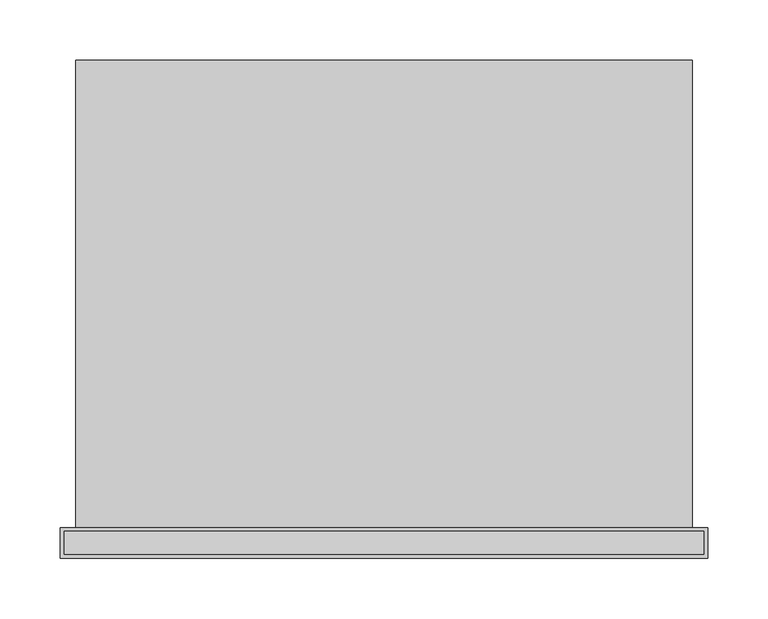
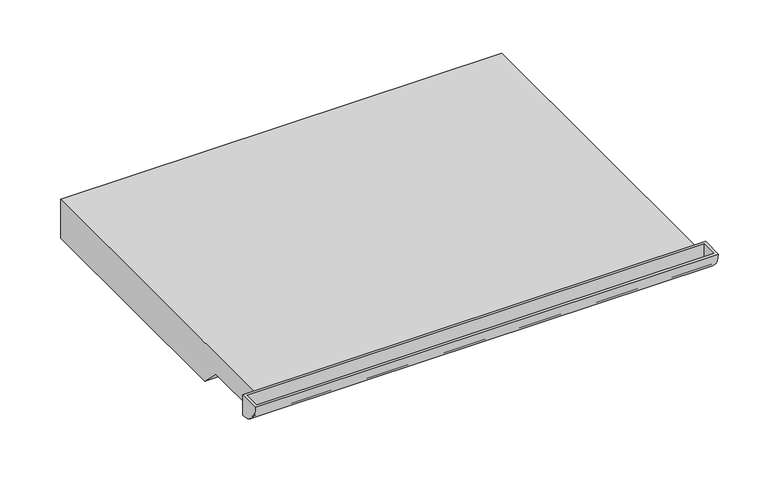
"""IFC4 building model written with IfcOpenShell, lengths in millimetres: furniture geometry."""

import ifcopenshell
import ifcopenshell.guid

model = None  # the IFC model being written
_history = None  # IfcOwnerHistory: only IFC2X3 demands one
_inside = {}  # id of a spatial element -> (the spatial element, [elements in it])
_under = {}  # id of a project, library or spatial element -> (it, [spatial elements below it])
_declared = {}  # id of a project -> (the project, [libraries it declares])
_typed = {}  # id of a type object -> (the type object, [elements of that type])
_made_of = {}  # id of a material, layer set ... -> (it, [elements and type objects made of it])


def new_model(schema):
    """Start an empty IFC model of exactly this schema.

    Asked for "IFC4X3", IfcOpenShell would pick the latest addendum, in which some entities
    have other attributes; the version numbers below select the first issue.
    IFC2X3 requires an IfcOwnerHistory on every rooted entity: one is made here for all.
    """
    global model, _history
    if schema == "IFC4X3":
        model = ifcopenshell.file(schema_version=(4, 3, 0, 0))
    else:
        model = ifcopenshell.file(schema=schema)
    _inside.clear()
    _under.clear()
    _declared.clear()
    _typed.clear()
    _made_of.clear()
    _history = None
    if model.schema == "IFC2X3":
        org = make("IfcOrganization", Name="unknown")
        user = make(
            "IfcPersonAndOrganization",
            ThePerson=make("IfcPerson", FamilyName="unknown"),
            TheOrganization=org,
        )
        app = make(
            "IfcApplication",
            ApplicationDeveloper=org,
            Version="unknown",
            ApplicationFullName="unknown",
            ApplicationIdentifier="unknown",
        )
        _history = make(
            "IfcOwnerHistory",
            OwningUser=user,
            OwningApplication=app,
            ChangeAction="ADDED",
            CreationDate=0,
        )
    return model


def make(cls, **values):
    """One entity of the class cls with the attributes given. An attribute that is None is left unset."""
    return model.create_entity(
        cls, **{name: value for name, value in values.items() if value is not None}
    )


def rooted(cls, **values):
    """An entity with a GlobalId (a new one), such as an element, a storey or a relation."""
    return make(cls, GlobalId=ifcopenshell.guid.new(), OwnerHistory=_history, **values)


def si_unit(unit_type, name, prefix=None):
    """IfcSIUnit, for example si_unit("LENGTHUNIT", "METRE", prefix="MILLI")."""
    return make("IfcSIUnit", UnitType=unit_type, Prefix=prefix, Name=name)


def assignment(units):
    """IfcUnitAssignment: the units of a project."""
    return None if units is None else make("IfcUnitAssignment", Units=units)


def point(xyz):
    """IfcCartesianPoint."""
    return None if xyz is None else make("IfcCartesianPoint", Coordinates=xyz)


def direction(xyz):
    """IfcDirection."""
    return None if xyz is None else make("IfcDirection", DirectionRatios=xyz)


def frame(location, z_axis=None, x_axis=None):
    """IfcAxis2Placement3D, a coordinate frame: its origin and axes. An axis left out is left unset."""
    return make(
        "IfcAxis2Placement3D",
        Location=point(location),
        Axis=direction(z_axis),
        RefDirection=direction(x_axis),
    )


def origin():
    """The frame at (0, 0, 0) with its axes left unset."""
    return frame((0.0, 0.0, 0.0))


def place(relative_to, where):
    """IfcLocalPlacement: puts the frame where relative to a parent placement (None: the world)."""
    return make(
        "IfcLocalPlacement", PlacementRelTo=relative_to, RelativePlacement=where
    )


def context(
    kind, dimensions, precision=None, world=None, true_north=None, identifier=None
):
    """IfcGeometricRepresentationContext, for example the 3D "Model" context."""
    return make(
        "IfcGeometricRepresentationContext",
        ContextIdentifier=identifier,
        ContextType=kind,
        CoordinateSpaceDimension=dimensions,
        Precision=precision,
        WorldCoordinateSystem=world,
        TrueNorth=true_north,
    )


def project(units=None, contexts=None):
    """IfcProject with its units and contexts."""
    return rooted(
        "IfcProject",
        Name="project",
        RepresentationContexts=contexts,
        UnitsInContext=assignment(units),
    )


def spatial(cls, under=None, at=None, **own):
    """A site, building, storey or space (cls), placed at a placement, below another one or the project."""
    s = rooted(cls, ObjectPlacement=at, **own)
    if under is not None:
        _under.setdefault(under.id(), (under, []))[1].append(s)
    return s


def polyline(points):
    """IfcPolyline through the points."""
    return make("IfcPolyline", Points=[point(p) for p in points])


def circle_curve(where, radius):
    """IfcCircle in the frame where."""
    return make("IfcCircle", Position=where, Radius=radius)


def outline(outer, holes=None, kind="AREA"):
    """IfcArbitraryClosedProfileDef: a profile drawn as a closed curve; with holes, ...WithVoids."""
    if holes is None:
        return make("IfcArbitraryClosedProfileDef", ProfileType=kind, OuterCurve=outer)
    return make(
        "IfcArbitraryProfileDefWithVoids",
        ProfileType=kind,
        OuterCurve=outer,
        InnerCurves=holes,
    )


def extrude(swept, where, along, depth):
    """IfcExtrudedAreaSolid: the profile swept, set in the frame where, extruded along a direction by depth."""
    return make(
        "IfcExtrudedAreaSolid",
        SweptArea=swept,
        Position=where,
        ExtrudedDirection=direction(along),
        Depth=depth,
    )


def shape(context_of_items, identifier, shape_type, items):
    """IfcShapeRepresentation: the items that make up one representation, for example the "Body"."""
    return make(
        "IfcShapeRepresentation",
        ContextOfItems=context_of_items,
        RepresentationIdentifier=identifier,
        RepresentationType=shape_type,
        Items=items,
    )


def source(mapping_origin, context_of_items, identifier, shape_type, items):
    """IfcRepresentationMap: a shape defined once, which mapped items show again and again."""
    return make(
        "IfcRepresentationMap",
        MappingOrigin=mapping_origin,
        MappedRepresentation=shape(context_of_items, identifier, shape_type, items),
    )


def transform(
    local_origin,
    x_axis=None,
    y_axis=None,
    z_axis=None,
    scale=None,
    scale2=None,
    scale3=None,
    uniform=True,
):
    """IfcCartesianTransformationOperator3D, or its non-uniform kind. x_axis, y_axis, z_axis: its Axis1, 2, 3."""
    if uniform:
        return make(
            "IfcCartesianTransformationOperator3D",
            Axis1=direction(x_axis),
            Axis2=direction(y_axis),
            LocalOrigin=point(local_origin),
            Scale=scale,
            Axis3=direction(z_axis),
        )
    return make(
        "IfcCartesianTransformationOperator3DnonUniform",
        Axis1=direction(x_axis),
        Axis2=direction(y_axis),
        LocalOrigin=point(local_origin),
        Scale=scale,
        Axis3=direction(z_axis),
        Scale2=scale2,
        Scale3=scale3,
    )


def mapped(mapping_source, mapping_target):
    """IfcMappedItem: shows the shape of a source again, moved by a transform."""
    return make(
        "IfcMappedItem", MappingSource=mapping_source, MappingTarget=mapping_target
    )


def made_of(thing, what):
    """Note that an element or type object is made of a material, layer set ...; save() writes the relation."""
    if what is not None:
        _made_of.setdefault(what.id(), (what, []))[1].append(thing)
    return thing


def element(
    cls,
    number,
    at=None,
    inside=None,
    cuts=None,
    type_object=None,
    material=None,
    context=None,
    identifier="Body",
    shape_type=None,
    held_by="IfcProductDefinitionShape",
    body=None,
    shapes=None,
    **own,
):
    """One element of the class cls, such as IfcWall. Its Tag is "e" and its number.

    at: its placement. inside: the storey or other place that contains it. cuts: it is an
    opening in that element (IfcRelVoidsElement). A single representation is given by context,
    identifier, shape_type and body (its items); several are given by shapes. held_by: the class
    of the entity that holds the representations. save() writes the other relations.
    """
    e = rooted(cls, Tag="e%d" % number, ObjectPlacement=at, **own)
    if body is not None:
        shapes = [shape(context, identifier, shape_type, body)]
    if shapes is not None:
        e.Representation = make(held_by, Representations=shapes)
    if inside is not None:
        _inside.setdefault(inside.id(), (inside, []))[1].append(e)
    if cuts is not None:
        rooted(
            "IfcRelVoidsElement", RelatingBuildingElement=cuts, RelatedOpeningElement=e
        )
    if type_object is not None:
        _typed.setdefault(type_object.id(), (type_object, []))[1].append(e)
    return made_of(e, material)


def aggregate(whole, parts):
    """IfcRelAggregates: a whole, such as a stair, and the parts it consists of."""
    return rooted("IfcRelAggregates", RelatingObject=whole, RelatedObjects=parts)


def save(model, path):
    """Write the relations noted so far, then the file.

    IfcRelAggregates (storeys below a building ...), IfcRelContainedInSpatialStructure (elements
    in a storey), IfcRelDefinesByType, IfcRelAssociatesMaterial and IfcRelDeclares: one each for
    every whole, place, type object, material and project.
    """
    for whole, parts in _under.values():
        aggregate(whole, parts)
    for where, things in _inside.values():
        rooted(
            "IfcRelContainedInSpatialStructure",
            RelatedElements=things,
            RelatingStructure=where,
        )
    for kind, things in _typed.values():
        rooted("IfcRelDefinesByType", RelatedObjects=things, RelatingType=kind)
    for what, things in _made_of.values():
        rooted("IfcRelAssociatesMaterial", RelatedObjects=things, RelatingMaterial=what)
    for by, libraries in _declared.values():
        rooted("IfcRelDeclares", RelatingContext=by, RelatedDefinitions=libraries)
    model.write(path)


def plane_surface(at):
    """IfcPlane: the flat surface through the origin of the frame at, square to its z axis."""
    return make("IfcPlane", Position=at)


def cylinder_surface(at, radius):
    """IfcCylindricalSurface: all points at the distance radius from the z axis of the frame at."""
    return make("IfcCylindricalSurface", Position=at, Radius=radius)


def revolved_surface(curve, axis_point, axis_direction):
    """IfcSurfaceOfRevolution: the curve turned about the line through axis_point along axis_direction."""
    return make(
        "IfcSurfaceOfRevolution",
        SweptCurve=make("IfcArbitraryOpenProfileDef", ProfileType="CURVE", Curve=curve),
        AxisPosition=make("IfcAxis1Placement", Location=point(axis_point), Axis=direction(axis_direction)),
    )


def advanced_brep(points, edges, surfaces, faces):
    """IfcAdvancedBrep: a solid bounded by faces that lie on surfaces and meet in shared edges.

    An edge is (start, end): straight between two places in points (the first is 0);
    or (start, end, curve); or (start, end, curve, False) where it runs against its curve.
    A face is (place in surfaces, loops), or (place, loops, False) where it looks against
    its surface's normal. A loop lists edges by number (the first is 1), with a minus sign
    where the edge is run from its end to its start. The first loop is the outer one.
    """
    corners = [point(p) for p in points]
    vertices = [make("IfcVertexPoint", VertexGeometry=c) for c in corners]
    made = []
    for start, end, *more in edges:
        made.append(
            make(
                "IfcEdgeCurve",
                EdgeStart=vertices[start],
                EdgeEnd=vertices[end],
                EdgeGeometry=more[0] if more else make("IfcPolyline", Points=[corners[start], corners[end]]),
                SameSense=more[1] if len(more) > 1 else True,
            )
        )
    hull = []
    for where, loops, *sense in faces:
        bounds = []
        for j, loop in enumerate(loops):
            ring = [make("IfcOrientedEdge", EdgeElement=made[abs(k) - 1], Orientation=k > 0) for k in loop]
            bounds.append(
                make(
                    "IfcFaceOuterBound" if j == 0 else "IfcFaceBound",
                    Bound=make("IfcEdgeLoop", EdgeList=ring),
                    Orientation=True,
                )
            )
        hull.append(make("IfcAdvancedFace", Bounds=bounds, FaceSurface=surfaces[where], SameSense=sense[0] if sense else True))
    return make("IfcAdvancedBrep", Outer=make("IfcClosedShell", CfsFaces=hull))


def furniture_d54c757f(model_context):
    return source(origin(), model_context, "Body", "SolidModel", [
        advanced_brep(
        [(268.2875, -180.975, 692.15), (268.2875, -206.375, 692.15), (268.2875, -180.975, 666.75), (-268.2875, -180.975, 692.15), (-268.2875, -180.975, 666.75), (-268.2875, -206.375, 692.15), (265.1125, -184.15, 692.15), (265.1125, -203.2, 692.15), (-265.1125, -203.2, 692.15), (-265.1125, -184.15, 692.15), (265.1125, -184.15, 669.925), (-265.1125, -184.15, 669.925)],
        [
            (0, 1),
            (1, 2, circle_curve(frame((268.2875, -180.975, 692.15), z_axis=(1.0, 0.0, 0.0), x_axis=(0.0, 1.0, 0.0)), 25.4)),
            (2, 0),
            (3, 4),
            (4, 5, circle_curve(frame((-268.2875, -180.975, 692.15), z_axis=(-1.0, 0.0, 0.0), x_axis=(0.0, 1.0, 0.0)), 25.4)),
            (5, 3),
            (0, 3),
            (5, 1),
            (6, 7),
            (7, 8),
            (8, 9),
            (9, 6),
            (4, 2),
            (6, 10),
            (10, 7, circle_curve(frame((265.1125, -184.0825839, 689.2595709), z_axis=(-1.0, 0.0, 0.0), x_axis=(0.0, 1.0, 0.0)), 19.3346885)),
            (8, 11, circle_curve(frame((-265.1125, -184.0825839, 689.2595709), z_axis=(1.0, 0.0, 0.0), x_axis=(0.0, 1.0, 0.0)), 19.3346885)),
            (11, 9),
            (10, 11),
        ],
        [
            plane_surface(frame((268.2875, -206.375, 692.15), z_axis=(1.0, 0.0, 0.0), x_axis=(0.0, -1.0, 0.0))),
            plane_surface(frame((-268.2875, -206.375, 692.15), z_axis=(-1.0, 0.0, 0.0), x_axis=(0.0, 1.0, 0.0))),
            plane_surface(frame((268.2875, -180.975, 692.15), z_axis=(0.0, 0.0, 1.0), x_axis=(-1.0, 0.0, 0.0))),
            cylinder_surface(frame((-268.2875, -180.975, 692.15), z_axis=(1.0, 0.0, 0.0), x_axis=(0.0, 1.0, 0.0)), 25.4),
            plane_surface(frame((268.2875, -180.975, 666.75), z_axis=(0.0, 1.0, 0.0), x_axis=(-1.0, 0.0, 0.0))),
            plane_surface(frame((265.1125, -203.2, 692.15), z_axis=(-1.0, 0.0, 0.0), x_axis=(0.0, -1.0, 0.0))),
            plane_surface(frame((-265.1125, -203.2, 692.15), z_axis=(1.0, 0.0, 0.0), x_axis=(0.0, 1.0, 0.0))),
            revolved_surface(polyline([(265.1125, -164.7478954, 689.2595709), (-265.1125, -164.7478954, 689.2595709)]), (-265.1125, -184.0825839, 689.2595709), (1.0, 0.0, 0.0)),
            plane_surface(frame((265.1125, -184.15, 669.925), z_axis=(0.0, -1.0, 0.0), x_axis=(-1.0, 0.0, 0.0))),
        ],
        [
            (0, [[1, 2, 3]]),
            (1, [[4, 5, 6]]),
            (2, [[-1, 7, -6, 8], [9, 10, 11, 12]]),
            (3, [[-2, -8, -5, 13]]),
            (4, [[-3, -13, -4, -7]]),
            (5, [[14, 15, -9]]),
            (6, [[16, 17, -11]]),
            (7, [[-15, 18, -16, -10]]),
            (8, [[-14, -12, -17, -18]]),
        ],
    ),
        extrude(outline(polyline([(206.375, 692.15), (206.375, 644.525), (-82.55, 644.525), (-104.775, 666.75), (-180.975, 666.75), (-180.975, 692.15), (206.375, 692.15)])), frame((-255.5875, 0.0, 0.0), z_axis=(1.0, 0.0, 0.0), x_axis=(0.0, 1.0, 0.0)), (0.0, 0.0, 1.0), 511.175),
    ])


if __name__ == "__main__":
    model = new_model("IFC4")
    model_context = context("Model", 3, world=origin())
    ifc_project = project(units=[si_unit("LENGTHUNIT", "METRE", prefix="MILLI")], contexts=[model_context])
    site = spatial("IfcSite", under=ifc_project)
    building = spatial("IfcBuilding", under=site)
    placement = place(None, origin())
    furniture_shape = furniture_d54c757f(model_context)
    element("IfcFurniture", 1, ObjectType="HermanMiller_ThrivePortfolio_Y5010_PencilDrawer : 2\"H x 16\"D x 21\"W", at=placement, inside=building, context=model_context, shape_type="MappedRepresentation", body=[
        mapped(furniture_shape, transform((0.0, 0.0, 0.0), x_axis=(1.0, 0.0, 0.0), y_axis=(0.0, 1.0, 0.0), z_axis=(0.0, 0.0, 1.0))),
    ])
    save(model, "model.ifc")
